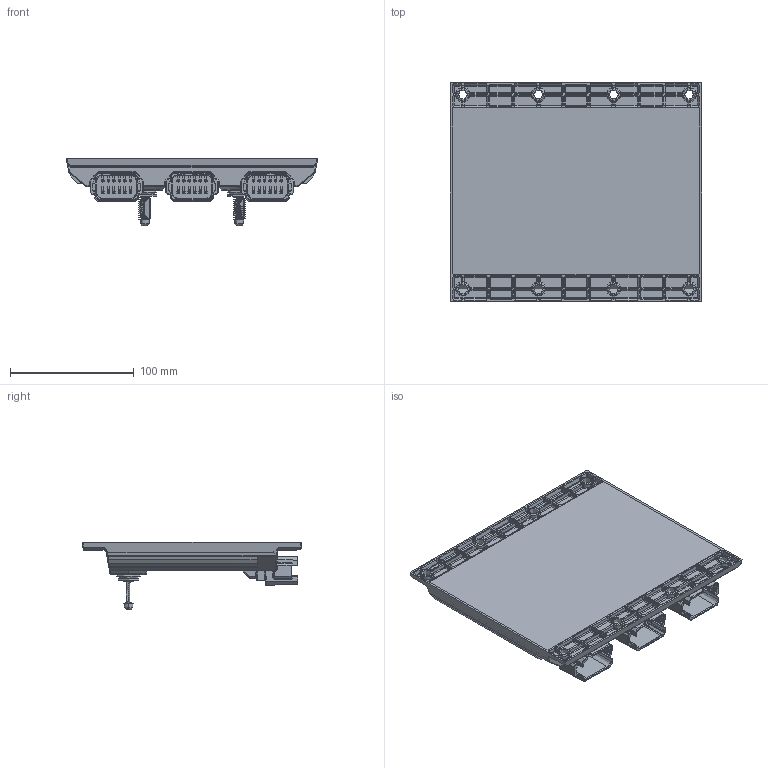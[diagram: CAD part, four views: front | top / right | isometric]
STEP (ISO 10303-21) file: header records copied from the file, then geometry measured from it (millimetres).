
FILE_DESCRIPTION (( 'STEP AP214' ), '1' );
FILE_NAME ('505060 Full Assembly.STEP', '2024-03-21T18:57:12', ( '' ), ( '' ), 'SwSTEP 2.0', 'SolidWorks 2024', '' );
FILE_SCHEMA (( 'AUTOMOTIVE_DESIGN' ));
Length unit declared in the file: inch
Products named in the file (7): 1F001-20231011; 505060_BOARD; 97163A116_Tapered Heat-Set Inserts for Plastic_97163A116; 505060 Simplified; 505060_Potting; 505060 Full Assembly; 014385DB
Assembly tree (7 placements, depth 3):
  505060 Full Assembly
    014385DB
      97163A116_Tapered Heat-Set Inserts for Plastic_97163A116  x2
      1F001-20231011
    505060 Simplified
      505060_BOARD
    505060_Potting
Bounding box: 203.2 x 177.78 x 54.19 mm (x, y, z)
Topology: 49 solids, 52 shells, 7771 faces, 19162 edges, 10973 vertices
Faces by surface type: cylinder 2480, bspline 2398, plane 1510, sphere 602, cone 422, torus 359
Entity records: 441536 total; most frequent: CARTESIAN_POINT 206707, ORIENTED_EDGE 34852, DIRECTION 27475, EDGE_CURVE 17426, AXIS2_PLACEMENT_3D 10942, VERTEX_POINT 10295, EDGE_LOOP 7751, FACE_OUTER_BOUND 7330
